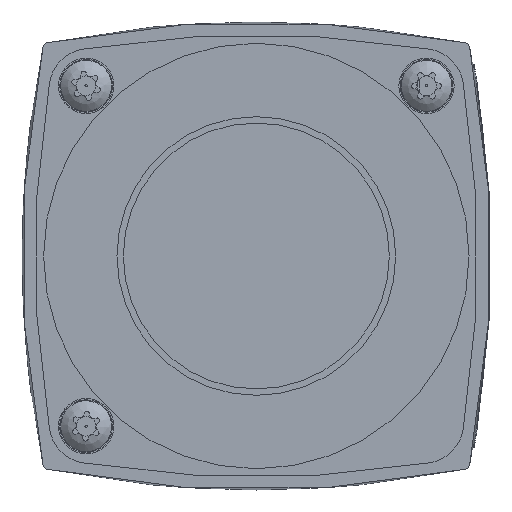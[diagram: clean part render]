
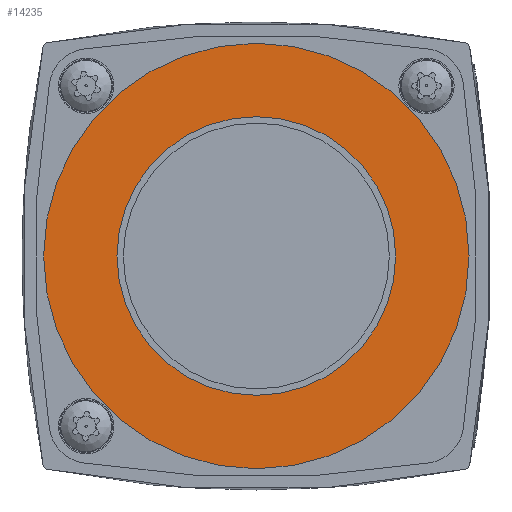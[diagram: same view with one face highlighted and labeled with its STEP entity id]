
A CAD part, front view. The second image highlights one B-rep face of the part: STEP entity #14235.
In plain terms, the highlighted planar face has unit normal (0, -1, 0).
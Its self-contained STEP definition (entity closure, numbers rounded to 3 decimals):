
#59=FACE_BOUND('',#1976,.T.);
#367=CIRCLE('',#15073,20.);
#378=CIRCLE('',#15090,13.1);
#689=PLANE('',#15091);
#1188=FACE_OUTER_BOUND('',#1975,.T.);
#1975=EDGE_LOOP('',(#9678));
#1976=EDGE_LOOP('',(#9679));
#5861=VERTEX_POINT('',#20846);
#5870=VERTEX_POINT('',#20875);
#7316=EDGE_CURVE('',#5861,#5861,#367,.T.);
#7330=EDGE_CURVE('',#5870,#5870,#378,.T.);
#9678=ORIENTED_EDGE('',*,*,#7316,.F.);
#9679=ORIENTED_EDGE('',*,*,#7330,.T.);
#14235=ADVANCED_FACE('',(#1188,#59),#689,.T.);
#15073=AXIS2_PLACEMENT_3D('',#20848,#16304,#16305);
#15090=AXIS2_PLACEMENT_3D('',#20877,#16341,#16342);
#15091=AXIS2_PLACEMENT_3D('',#20878,#16343,#16344);
#16304=DIRECTION('center_axis',(0.,1.,0.));
#16305=DIRECTION('ref_axis',(0.,0.,
-1.));
#16341=DIRECTION('center_axis',(0.,1.,0.));
#16342=DIRECTION('ref_axis',(0.,0.,
-1.));
#16343=DIRECTION('center_axis',(0.,-1.,0.));
#16344=DIRECTION('ref_axis',(-1.,0.,0.));
#20846=CARTESIAN_POINT('',(0.,-10.2,20.));
#20848=CARTESIAN_POINT('Origin',(0.,-10.2,
0.));
#20875=CARTESIAN_POINT('',(0.,-10.2,13.1));
#20877=CARTESIAN_POINT('Origin',(0.,-10.2,
0.));
#20878=CARTESIAN_POINT('Origin',(0.,-10.2,
-16.55));
